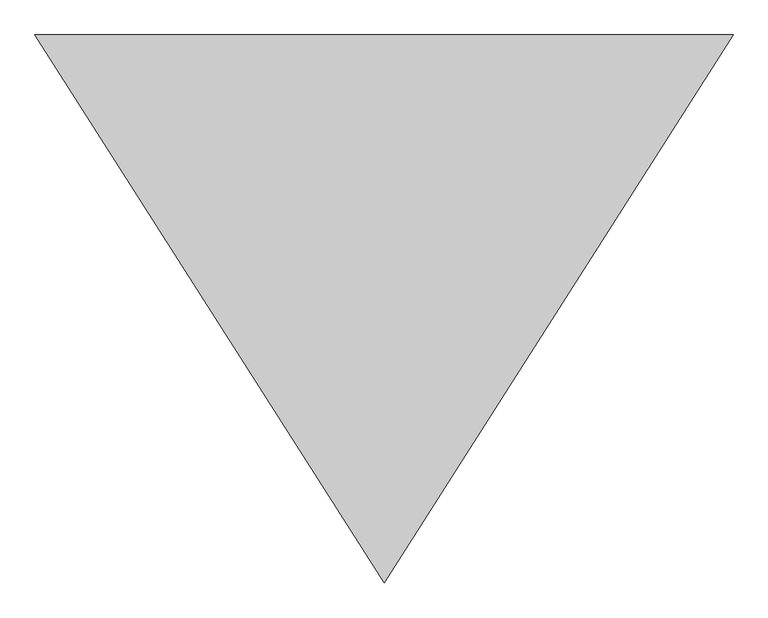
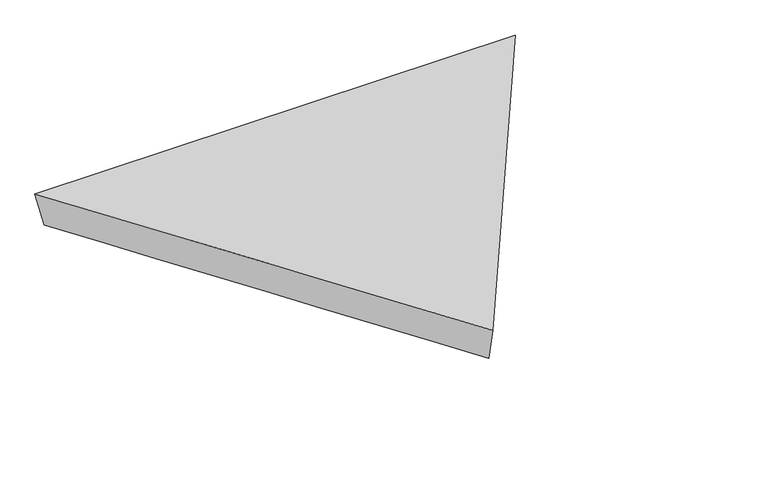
"""IFC4 building model written with IfcOpenShell, lengths in millimetres: plate geometry."""

from ifc_helpers import new_model, si_unit, frame, origin, place, context, project, spatial, source, transform, mapped, element, save
from ifc_brep_helpers import plane_surface, spline_surface, advanced_brep


def plate_1bf0ab55(model_context):
    return source(origin(), model_context, "Body", "AdvancedBrep", [
        advanced_brep(
        [(6096.0, 3653.9296621, 0.0), (7452.4087631, 5793.0351689, 0.0), (7496.8614846, 5808.9829496, 197.6356846), (6096.0, 3610.1508856, 198.4279686), (4739.5912369, 5793.0351689, 0.0), (4695.1385154, 5808.9829496, 197.6356846)],
        [
            (0, 1),
            (1, 2),
            (2, 3),
            (3, 0),
            (1, 4),
            (4, 5),
            (5, 2),
            (4, 0),
            (3, 5),
        ],
        [
            spline_surface(1, 1, [[(6096.0, 3653.9296621, 0.0), (6096.0, 3610.1508856, 198.4279686)], [(7452.4087631, 5793.0351689, 0.0), (7496.8614846, 5808.9829496, 197.6356846)]], [2, 2], [2, 2], [0.0, 1.0], [0.0, 1.0]),
            plane_surface(frame((6096.0, 5793.0351689, 0.0), z_axis=(0.0, 0.9967601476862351, -0.08043138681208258), x_axis=(-1.0, 0.0, 0.0))),
            spline_surface(1, 1, [[(4739.5912369, 5793.0351689, 0.0), (4695.1385154, 5808.9829496, 197.6356846)], [(6096.0, 3653.9296621, 0.0), (6096.0, 3610.1508856, 198.4279686)]], [2, 2], [2, 2], [0.0, 1.0], [0.0, 1.0]),
            plane_surface(frame((6096.0, 5076.0389282, 197.8997793), z_axis=(0.0, 0.00036032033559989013, 0.9999999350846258), x_axis=(0.5373134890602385, -0.8433825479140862, 0.00030388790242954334))),
            plane_surface(frame((6096.0, 5080.0, 0.0), z_axis=(0.0, 0.0, -1.0), x_axis=(-0.5355146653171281, 0.8445259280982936, 0.0))),
        ],
        [
            (0, [[1, 2, 3, 4]]),
            (1, [[5, 6, 7, -2]]),
            (2, [[8, -4, 9, -6]]),
            (3, [[-9, -3, -7]]),
            (4, [[-8, -5, -1]]),
        ],
    ),
    ])


if __name__ == "__main__":
    model = new_model("IFC4")
    model_context = context("Model", 3, world=origin())
    ifc_project = project(units=[si_unit("LENGTHUNIT", "METRE", prefix="MILLI")], contexts=[model_context])
    site = spatial("IfcSite", under=ifc_project)
    building = spatial("IfcBuilding", under=site)
    placement = place(None, origin())
    plate_shape = plate_1bf0ab55(model_context)
    element("IfcPlate", 1, ObjectType="tn_cpanel_patbase_triangle_flat_seamless_solid_01 : tn_cpanel_pattern_mullion_h8\"", at=placement, inside=building, context=model_context, shape_type="MappedRepresentation", body=[
        mapped(plate_shape, transform((0.0, 0.0, 0.0), x_axis=(1.0, 0.0, 0.0), y_axis=(0.0, 1.0, 0.0), z_axis=(0.0, 0.0, 1.0))),
    ])
    save(model, "model.ifc")
